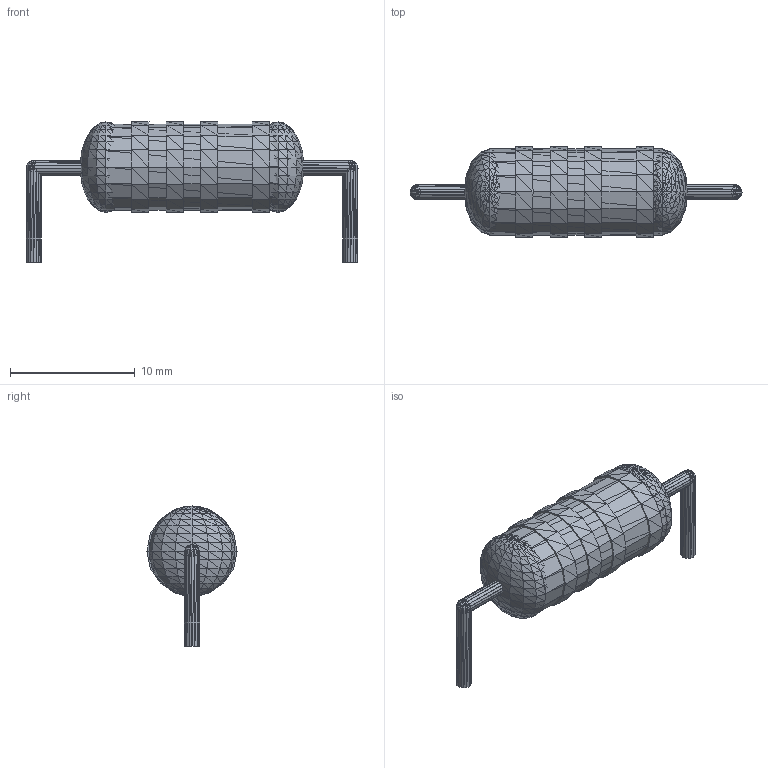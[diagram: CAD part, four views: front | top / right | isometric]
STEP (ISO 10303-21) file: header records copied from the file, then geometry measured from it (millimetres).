
FILE_DESCRIPTION(('HOOPS Exchange Step'),'2;1');
FILE_NAME('***.stp');
FILE_SCHEMA( ('AP242_MANAGED_MODEL_BASED_3D_ENGINEERING_MIM_LF {1 0 10303 442 1 1 4 }') );
Length unit declared in the file: inch
Products named in the file (7): R_3W_1K_2; R_3W_1K_3; R_3W_1K_4; R_3W_1K_5; R_3W_1K_6; R_3W_1K_7; R_3W_1K
Assembly tree (6 placements, depth 2):
  R_3W_1K
    R_3W_1K_2
    R_3W_1K_3
    R_3W_1K_4
    R_3W_1K_5
    R_3W_1K_6
    R_3W_1K_7
Bounding box: 26.6 x 7.24 x 11.23 mm (x, y, z)
Volume: 765.8 mm3; surface area: 1211.9 mm2
Topology: 8 solids, 12 shells, 2432 faces, 3648 edges, 1240 vertices
Faces by surface type: plane 2432
Entity records: 47806 total; most frequent: DIRECTION 8540, CARTESIAN_POINT 7334, ORIENTED_EDGE 7296, VECTOR 3648, LINE 3648, EDGE_CURVE 3648, AXIS2_PLACEMENT_3D 2446, PLANE 2432
